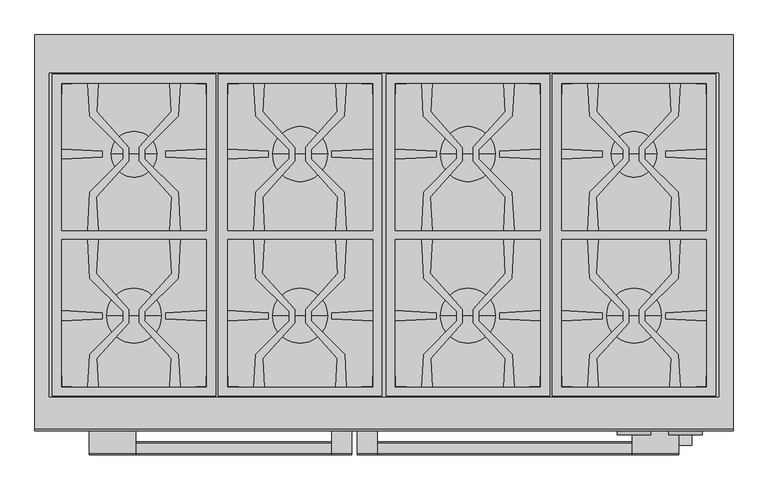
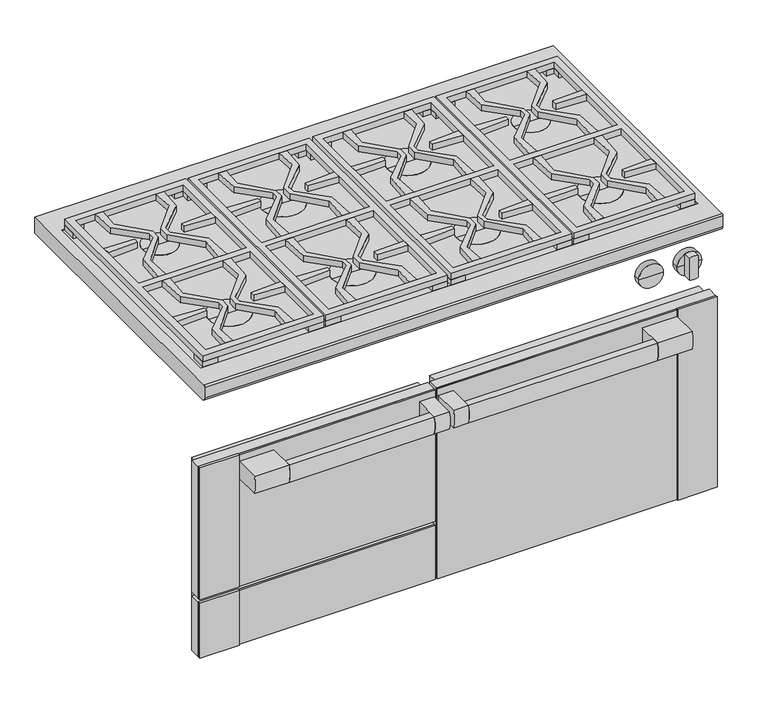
"""IFC4 building model written with IfcOpenShell, lengths in millimetres: proxy geometry, 11791670_USA_HR1954-3G_EDST-CLST : 25195481_USA_11791670_HR1954-3G_EDST-CLST."""

from ifc_helpers import new_model, si_unit, point, frame, frame_2d, origin, place, context, project, spatial, polyline, circle_curve, trimmed, segment, composite_curve, outline, extrude, faceted_brep, source, transform, mapped, element, save
from ifc_brep_helpers import plane_surface, cylinder_surface, advanced_brep


def specialty_equipment_ac291588(model_context):
    return source(origin(), model_context, "Body", "SolidModel", [
        faceted_brep([(608.5, -664.7, 684.0), (608.5, -664.7, 210.0), (515.5, -664.7, 210.0), (515.5, -664.7, 211.0), (607.5, -664.7, 211.0), (607.5, -664.7, 683.0), (515.5, -664.7, 683.0), (515.5, -664.7, 684.0), (608.5, -670.0, 684.0), (515.5, -670.0, 684.0), (515.5, -670.0, 210.0), (608.5, -670.0, 210.0), (515.5, -668.7, 683.0), (515.5, -668.7, 211.0), (607.5, -668.7, 683.0), (607.5, -668.7, 211.0)], [[[0, 1, 2, 3, 4, 5, 6, 7]], [[8, 9, 10, 11]], [[1, 0, 8, 11]], [[2, 1, 11, 10]], [[10, 9, 7, 6, 12, 13, 3, 2]], [[0, 7, 9, 8]], [[14, 15, 13, 12]], [[15, 14, 5, 4]], [[13, 15, 4, 3]], [[14, 12, 6, 5]]]),
        extrude(outline(polyline([(-48.5, -664.7), (607.5, -664.7), (607.5, -668.7), (-48.5, -668.7), (-48.5, -664.7)])), frame((0.0, 0.0, 211.0), z_axis=(0.0, 0.0, 1.0), x_axis=(1.0, 0.0, 0.0)), (0.0, 0.0, 1.0), 472.0),
        faceted_brep([(-515.5, -664.7, 355.0), (-608.5, -664.7, 355.0), (-608.5, -664.7, 684.0), (-515.5, -664.7, 684.0), (-515.5, -664.7, 683.0), (-607.5, -664.7, 683.0), (-607.5, -664.7, 356.0), (-515.5, -664.7, 356.0), (-515.5, -670.0, 684.0), (-608.5, -670.0, 684.0), (-608.5, -670.0, 355.0), (-515.5, -670.0, 355.0), (-515.5, -668.7, 356.0), (-515.5, -668.7, 683.0), (-607.5, -668.7, 356.0), (-607.5, -668.7, 683.0)], [[[0, 1, 2, 3, 4, 5, 6, 7]], [[8, 9, 10, 11]], [[8, 11, 0, 7, 12, 13, 4, 3]], [[1, 0, 11, 10]], [[2, 1, 10, 9]], [[3, 2, 9, 8]], [[12, 14, 15, 13]], [[14, 12, 7, 6]], [[15, 14, 6, 5]], [[13, 15, 5, 4]]]),
        extrude(outline(polyline([(-607.5, -664.7), (-53.5, -664.7), (-53.5, -668.7), (-607.5, -668.7), (-607.5, -664.7)])), frame((0.0, 0.0, 356.0), z_axis=(0.0, 0.0, 1.0), x_axis=(1.0, 0.0, 0.0)), (0.0, 0.0, 1.0), 327.0),
        faceted_brep([(-515.5, -664.7, 210.0), (-608.5, -664.7, 210.0), (-608.5, -664.7, 347.0), (-515.5, -664.7, 347.0), (-515.5, -664.7, 346.0), (-607.5, -664.7, 346.0), (-607.5, -664.7, 211.0), (-515.5, -664.7, 211.0), (-515.5, -670.0, 347.0), (-608.5, -670.0, 347.0), (-608.5, -670.0, 210.0), (-515.5, -670.0, 210.0), (-515.5, -668.7, 211.0), (-515.5, -668.7, 346.0), (-607.5, -668.7, 211.0), (-607.5, -668.7, 346.0)], [[[0, 1, 2, 3, 4, 5, 6, 7]], [[8, 9, 10, 11]], [[8, 11, 0, 7, 12, 13, 4, 3]], [[1, 0, 11, 10]], [[2, 1, 10, 9]], [[3, 2, 9, 8]], [[12, 14, 15, 13]], [[14, 12, 7, 6]], [[15, 14, 6, 5]], [[13, 15, 5, 4]]]),
        extrude(outline(polyline([(-607.5, -664.7), (-53.5, -664.7), (-53.5, -668.7), (-607.5, -668.7), (-607.5, -664.7)])), frame((0.0, 0.0, 211.0), z_axis=(0.0, 0.0, 1.0), x_axis=(1.0, 0.0, 0.0)), (0.0, 0.0, 1.0), 135.0),
        extrude(outline(polyline([(-608.5, -638.0), (-53.5, -638.0), (-53.5, -664.7), (-608.5, -664.7), (-608.5, -638.0)])), frame((0.0, 0.0, 356.0), z_axis=(0.0, 0.0, 1.0), x_axis=(1.0, 0.0, 0.0)), (0.0, 0.0, 1.0), 327.0),
        extrude(outline(polyline([(-48.5, -638.0), (608.5, -638.0), (608.5, -664.7), (-48.5, -664.7), (-48.5, -638.0)])), frame((0.0, 0.0, 211.0), z_axis=(0.0, 0.0, 1.0), x_axis=(1.0, 0.0, 0.0)), (0.0, 0.0, 1.0), 472.0),
        extrude(outline(polyline([(-608.5, -638.0), (-53.5, -638.0), (-53.5, -664.7), (-608.5, -664.7), (-608.5, -638.0)])), frame((0.0, 0.0, 211.0), z_axis=(0.0, 0.0, 1.0), x_axis=(1.0, 0.0, 0.0)), (0.0, 0.0, 1.0), 135.0),
        extrude(outline(polyline([(-36.5, -617.0), (596.5, -617.0), (596.5, -638.0), (-36.5, -638.0), (-36.5, -617.0)])), frame((0.0, 0.0, 218.0), z_axis=(0.0, 0.0, 1.0), x_axis=(1.0, 0.0, 0.0)), (0.0, 0.0, 1.0), 464.0),
        extrude(outline(polyline([(-596.5, -617.0), (-65.5, -617.0), (-65.5, -638.0), (-596.5, -638.0), (-596.5, -617.0)])), frame((0.0, 0.0, 359.0), z_axis=(0.0, 0.0, 1.0), x_axis=(1.0, 0.0, 0.0)), (0.0, 0.0, 1.0), 315.0),
        extrude(outline(polyline([(-596.5, -617.0), (-65.5, -617.0), (-65.5, -638.0), (-596.5, -638.0), (-596.5, -617.0)])), frame((0.0, 0.0, 211.5), z_axis=(0.0, 0.0, 1.0), x_axis=(1.0, 0.0, 0.0)), (0.0, 0.0, 1.0), 134.0),
        extrude(outline(composite_curve([segment(polyline([(-668.7, 667.0), (-668.7, 624.0), (-731.0, 624.0)]), True, "CONTINUOUS"), segment(trimmed(circle_curve(frame_2d((-655.4583333, 645.5)), 78.5416667), [point((-731.0, 624.0))], [point((-731.0, 667.0))], False, "CARTESIAN"), True, "CONTINUOUS"), segment(polyline([(-731.0, 667.0), (-668.7, 667.0)]), True, "CONTINUOUS")], self_intersect=False)), frame((-514.5, 0.0, 0.0), z_axis=(1.0, 0.0, 0.0), x_axis=(0.0, 1.0, 0.0)), (0.0, 0.0, 1.0), 81.0),
        extrude(outline(composite_curve([segment(polyline([(-731.0, 667.0), (-668.7, 667.0), (-668.7, 624.0), (-731.0, 624.0)]), True, "CONTINUOUS"), segment(trimmed(circle_curve(frame_2d((-655.4583333, 645.5)), 78.5416667), [point((-731.0, 624.0))], [point((-731.0, 667.0))], False, "CARTESIAN"), True, "CONTINUOUS")], self_intersect=False)), frame((433.5, 0.0, 0.0), z_axis=(1.0, 0.0, 0.0), x_axis=(0.0, 1.0, 0.0)), (0.0, 0.0, 1.0), 81.0),
        extrude(outline(composite_curve([segment(polyline([(-731.0, 667.0), (-668.7, 667.0), (-668.7, 624.0), (-731.0, 624.0)]), True, "CONTINUOUS"), segment(trimmed(circle_curve(frame_2d((-655.4583333, 645.5)), 78.5416667), [point((-731.0, 624.0))], [point((-731.0, 667.0))], False, "CARTESIAN"), True, "CONTINUOUS")], self_intersect=False)), frame((-91.5, 0.0, 0.0), z_axis=(1.0, 0.0, 0.0), x_axis=(0.0, 1.0, 0.0)), (0.0, 0.0, 1.0), 35.0),
        extrude(outline(composite_curve([segment(polyline([(-731.0, 667.0), (-668.7, 667.0), (-668.7, 624.0), (-731.0, 624.0)]), True, "CONTINUOUS"), segment(trimmed(circle_curve(frame_2d((-655.4583333, 645.5)), 78.5416667), [point((-731.0, 624.0))], [point((-731.0, 667.0))], False, "CARTESIAN"), True, "CONTINUOUS")], self_intersect=False)), frame((-46.5, 0.0, 0.0), z_axis=(1.0, 0.0, 0.0), x_axis=(0.0, 1.0, 0.0)), (0.0, 0.0, 1.0), 35.0),
        extrude(outline(composite_curve([segment(trimmed(circle_curve(frame_2d((-655.4583333, 645.5)), 78.5416667), [point((-731.0, 624.0))], [point((-731.0, 667.0))], False, "CARTESIAN"), True, "CONTINUOUS"), segment(polyline([(-731.0, 667.0), (-714.0, 667.0)]), True, "CONTINUOUS"), segment(trimmed(circle_curve(frame_2d((-789.5416667, 645.5)), 78.5416667), [point((-714.0, 667.0))], [point((-714.0, 624.0))], False, "CARTESIAN"), True, "CONTINUOUS"), segment(polyline([(-714.0, 624.0), (-731.0, 624.0)]), True, "CONTINUOUS")], self_intersect=False)), frame((-433.5, 0.0, 0.0), z_axis=(1.0, 0.0, 0.0), x_axis=(0.0, 1.0, 0.0)), (0.0, 0.0, 1.0), 342.0),
        extrude(outline(composite_curve([segment(trimmed(circle_curve(frame_2d((-655.4583333, 645.5)), 78.5416667), [point((-731.0, 624.0))], [point((-731.0, 667.0))], False, "CARTESIAN"), True, "CONTINUOUS"), segment(polyline([(-731.0, 667.0), (-714.0, 667.0)]), True, "CONTINUOUS"), segment(trimmed(circle_curve(frame_2d((-789.5416667, 645.5)), 78.5416667), [point((-714.0, 667.0))], [point((-714.0, 624.0))], False, "CARTESIAN"), True, "CONTINUOUS"), segment(polyline([(-714.0, 624.0), (-731.0, 624.0)]), True, "CONTINUOUS")], self_intersect=False)), frame((-11.5, 0.0, 0.0), z_axis=(1.0, 0.0, 0.0), x_axis=(0.0, 1.0, 0.0)), (0.0, 0.0, 1.0), 445.0),
        advanced_brep(
        [(609.5, 0.0, 902.0), (609.5, -688.3499547, 902.0), (609.5, -692.0, 898.3499547), (609.5, -692.0, 872.0), (609.5, -682.0, 862.0), (609.5, 0.0, 862.0), (-609.5, 0.0, 902.0), (-609.5, 0.0, 862.0), (-609.5, -682.0, 862.0), (-609.5, -692.0, 872.0), (-609.5, -692.0, 898.3499547), (-609.5, -688.3499547, 902.0), (-584.5, -67.0, 902.0), (584.5, -67.0, 902.0), (584.5, -633.0, 902.0), (-584.5, -633.0, 902.0), (584.5, -67.0, 870.0), (-584.5, -67.0, 870.0), (-584.5, -633.0, 870.0), (584.5, -633.0, 870.0)],
        [
            (0, 1),
            (1, 2, circle_curve(frame((609.5, -688.0, 898.0), z_axis=(1.0, 0.0, 0.0), x_axis=(0.0, 0.0, 1.0)), 4.0152794)),
            (2, 3),
            (3, 4, circle_curve(frame((609.5, -682.0, 872.0), z_axis=(1.0, 0.0, 0.0), x_axis=(0.0, 0.0, 1.0)), 10.0)),
            (4, 5),
            (5, 0),
            (6, 7),
            (7, 8),
            (8, 9, circle_curve(frame((-609.5, -682.0, 872.0), z_axis=(-1.0, 0.0, 0.0), x_axis=(0.0, 0.0, 1.0)), 10.0)),
            (9, 10),
            (10, 11, circle_curve(frame((-609.5, -688.0, 898.0), z_axis=(-1.0, 0.0, 0.0), x_axis=(0.0, 0.0, 1.0)), 4.0152794)),
            (11, 6),
            (0, 6),
            (11, 1),
            (12, 13),
            (13, 14),
            (14, 15),
            (15, 12),
            (10, 2),
            (9, 3),
            (8, 4),
            (7, 5),
            (16, 17),
            (17, 18),
            (18, 19),
            (19, 16),
            (16, 13),
            (12, 17),
            (15, 18),
            (14, 19),
        ],
        [
            plane_surface(frame((609.5, -688.3499547, 902.0), z_axis=(1.0, 0.0, 0.0), x_axis=(0.0, -1.0, 0.0))),
            plane_surface(frame((-609.5, -688.3499547, 902.0), z_axis=(-1.0, 0.0, 0.0), x_axis=(0.0, 1.0, 0.0))),
            plane_surface(frame((609.5, 0.0, 902.0), z_axis=(0.0, 0.0, 1.0), x_axis=(-1.0, 0.0, 0.0))),
            cylinder_surface(frame((-609.5, -688.0, 898.0), z_axis=(1.0, 0.0, 0.0), x_axis=(0.0, 0.0, 1.0)), 4.0152794),
            plane_surface(frame((609.5, -692.0, 898.3499547), z_axis=(0.0, -1.0, 0.0), x_axis=(-1.0, 0.0, 0.0))),
            cylinder_surface(frame((-609.5, -682.0, 872.0), z_axis=(1.0, 0.0, 0.0), x_axis=(0.0, 0.0, 1.0)), 10.0),
            plane_surface(frame((609.5, -682.0, 862.0), z_axis=(0.0, 0.0, -1.0), x_axis=(-1.0, 0.0, 0.0))),
            plane_surface(frame((609.5, 0.0, 862.0), z_axis=(0.0, 1.0, 0.0), x_axis=(-1.0, 0.0, 0.0))),
            plane_surface(frame((-584.5, -67.0, 870.0), z_axis=(0.0, 0.0, 1.0), x_axis=(1.0, 0.0, 0.0))),
            plane_surface(frame((584.5, -67.0, 902.0), z_axis=(0.0, -1.0, 0.0), x_axis=(0.0, 0.0, -1.0))),
            plane_surface(frame((-584.5, -67.0, 902.0), z_axis=(1.0, 0.0, 0.0), x_axis=(0.0, 0.0, -1.0))),
            plane_surface(frame((-584.5, -633.0, 902.0), z_axis=(0.0, 1.0, 0.0), x_axis=(0.0, 0.0, -1.0))),
            plane_surface(frame((584.5, -633.0, 902.0), z_axis=(-1.0, 0.0, 0.0), x_axis=(0.0, 0.0, -1.0))),
        ],
        [
            (0, [[1, 2, 3, 4, 5, 6]]),
            (1, [[7, 8, 9, 10, 11, 12]]),
            (2, [[-1, 13, -12, 14], [15, 16, 17, 18]]),
            (3, [[-2, -14, -11, 19]]),
            (4, [[-3, -19, -10, 20]]),
            (5, [[-4, -20, -9, 21]]),
            (6, [[-5, -21, -8, 22]]),
            (7, [[-6, -22, -7, -13]]),
            (8, [[23, 24, 25, 26]]),
            (9, [[-23, 27, -15, 28]]),
            (10, [[-24, -28, -18, 29]]),
            (11, [[-25, -29, -17, 30]]),
            (12, [[-26, -30, -16, -27]]),
        ],
    ),
        advanced_brep(
        [(98.5, -491.0, 887.0), (194.5, -491.0, 887.0), (194.5, -491.0, 901.0), (98.5, -491.0, 901.0), (146.5, -491.0, 887.0), (146.5, -491.0, 901.0)],
        [
            (0, 1, circle_curve(frame((146.5, -491.0, 887.0), z_axis=(0.0, 0.0, 1.0), x_axis=(1.0, 0.0, 0.0)), 48.0)),
            (1, 2),
            (2, 3, circle_curve(frame((146.5, -491.0, 901.0), z_axis=(0.0, 0.0, -1.0), x_axis=(1.0, 0.0, 0.0)), 48.0)),
            (3, 0),
            (1, 0, circle_curve(frame((146.5, -491.0, 887.0), z_axis=(0.0, 0.0, 1.0), x_axis=(1.0, 0.0, 0.0)), 48.0)),
            (3, 2, circle_curve(frame((146.5, -491.0, 901.0), z_axis=(0.0, 0.0, -1.0), x_axis=(1.0, 0.0, 0.0)), 48.0)),
            (4, 1),
            (0, 4),
            (2, 5),
            (5, 3),
        ],
        [
            cylinder_surface(frame((146.5, -491.0, 2424.4), z_axis=(0.0, 0.0, -1.0), x_axis=(1.0, 0.0, 0.0)), 48.0),
            plane_surface(frame((146.5, -491.0, 887.0), z_axis=(0.0, 0.0, -1.0), x_axis=(1.0, 0.0, 0.0))),
            plane_surface(frame((146.5, -491.0, 901.0), z_axis=(0.0, 0.0, 1.0), x_axis=(1.0, 0.0, 0.0))),
        ],
        [
            (0, [[1, 2, 3, 4]]),
            (0, [[5, -4, 6, -2]]),
            (1, [[7, -1, 8]]),
            (1, [[-8, -5, -7]]),
            (2, [[-3, 9, 10]]),
            (2, [[-6, -10, -9]]),
        ],
    ),
        advanced_brep(
        [(-194.5, -491.0, 887.0), (-98.5, -491.0, 887.0), (-98.5, -491.0, 901.0), (-194.5, -491.0, 901.0), (-146.5, -491.0, 887.0), (-146.5, -491.0, 901.0)],
        [
            (0, 1, circle_curve(frame((-146.5, -491.0, 887.0), z_axis=(0.0, 0.0, 1.0), x_axis=(1.0, 0.0, 0.0)), 48.0)),
            (1, 2),
            (2, 3, circle_curve(frame((-146.5, -491.0, 901.0), z_axis=(0.0, 0.0, -1.0), x_axis=(1.0, 0.0, 0.0)), 48.0)),
            (3, 0),
            (1, 0, circle_curve(frame((-146.5, -491.0, 887.0), z_axis=(0.0, 0.0, 1.0), x_axis=(1.0, 0.0, 0.0)), 48.0)),
            (3, 2, circle_curve(frame((-146.5, -491.0, 901.0), z_axis=(0.0, 0.0, -1.0), x_axis=(1.0, 0.0, 0.0)), 48.0)),
            (4, 1),
            (0, 4),
            (2, 5),
            (5, 3),
        ],
        [
            cylinder_surface(frame((-146.5, -491.0, 2424.4), z_axis=(0.0, 0.0, -1.0), x_axis=(1.0, 0.0, 0.0)), 48.0),
            plane_surface(frame((-146.5, -491.0, 887.0), z_axis=(0.0, 0.0, -1.0), x_axis=(1.0, 0.0, 0.0))),
            plane_surface(frame((-146.5, -491.0, 901.0), z_axis=(0.0, 0.0, 1.0), x_axis=(1.0, 0.0, 0.0))),
        ],
        [
            (0, [[1, 2, 3, 4]]),
            (0, [[5, -4, 6, -2]]),
            (1, [[7, -1, 8]]),
            (1, [[-8, -5, -7]]),
            (2, [[-3, 9, 10]]),
            (2, [[-6, -10, -9]]),
        ],
    ),
        advanced_brep(
        [(-146.5, -208.5, 887.0), (-98.5, -208.5, 887.0), (-194.5, -208.5, 887.0), (-194.5, -208.5, 901.0), (-98.5, -208.5, 901.0), (-146.5, -208.5, 901.0)],
        [
            (0, 1),
            (1, 2, circle_curve(frame((-146.5, -208.5, 887.0), z_axis=(0.0, 0.0, -1.0), x_axis=(1.0, 0.0, 0.0)), 48.0)),
            (2, 0),
            (2, 1, circle_curve(frame((-146.5, -208.5, 887.0), z_axis=(0.0, 0.0, -1.0), x_axis=(1.0, 0.0, 0.0)), 48.0)),
            (3, 4, circle_curve(frame((-146.5, -208.5, 901.0), z_axis=(0.0, 0.0, 1.0), x_axis=(1.0, 0.0, 0.0)), 48.0)),
            (4, 5),
            (5, 3),
            (4, 3, circle_curve(frame((-146.5, -208.5, 901.0), z_axis=(0.0, 0.0, 1.0), x_axis=(1.0, 0.0, 0.0)), 48.0)),
            (1, 4),
            (3, 2),
        ],
        [
            plane_surface(frame((-146.5, -208.5, 887.0), z_axis=(0.0, 0.0, -1.0), x_axis=(1.0, 0.0, 0.0))),
            plane_surface(frame((-146.5, -208.5, 901.0), z_axis=(0.0, 0.0, 1.0), x_axis=(1.0, 0.0, 0.0))),
            cylinder_surface(frame((-146.5, -208.5, 2424.4), z_axis=(0.0, 0.0, -1.0), x_axis=(1.0, 0.0, 0.0)), 48.0),
        ],
        [
            (0, [[1, 2, 3]]),
            (0, [[-3, 4, -1]]),
            (1, [[5, 6, 7]]),
            (1, [[8, -7, -6]]),
            (2, [[-2, 9, -5, 10]]),
            (2, [[-4, -10, -8, -9]]),
        ],
    ),
        advanced_brep(
        [(98.5, -208.5, 887.0), (194.5, -208.5, 887.0), (194.5, -208.5, 901.0), (98.5, -208.5, 901.0), (146.5, -208.5, 887.0), (146.5, -208.5, 901.0)],
        [
            (0, 1, circle_curve(frame((146.5, -208.5, 887.0), z_axis=(0.0, 0.0, 1.0), x_axis=(1.0, 0.0, 0.0)), 48.0)),
            (1, 2),
            (2, 3, circle_curve(frame((146.5, -208.5, 901.0), z_axis=(0.0, 0.0, -1.0), x_axis=(1.0, 0.0, 0.0)), 48.0)),
            (3, 0),
            (1, 0, circle_curve(frame((146.5, -208.5, 887.0), z_axis=(0.0, 0.0, 1.0), x_axis=(1.0, 0.0, 0.0)), 48.0)),
            (3, 2, circle_curve(frame((146.5, -208.5, 901.0), z_axis=(0.0, 0.0, -1.0), x_axis=(1.0, 0.0, 0.0)), 48.0)),
            (4, 1),
            (0, 4),
            (2, 5),
            (5, 3),
        ],
        [
            cylinder_surface(frame((146.5, -208.5, 2338.4), z_axis=(0.0, 0.0, -1.0), x_axis=(1.0, 0.0, 0.0)), 48.0),
            plane_surface(frame((146.5, -208.5, 887.0), z_axis=(0.0, 0.0, -1.0), x_axis=(1.0, 0.0, 0.0))),
            plane_surface(frame((146.5, -208.5, 901.0), z_axis=(0.0, 0.0, 1.0), x_axis=(1.0, 0.0, 0.0))),
        ],
        [
            (0, [[1, 2, 3, 4]]),
            (0, [[5, -4, 6, -2]]),
            (1, [[7, -1, 8]]),
            (1, [[-8, -5, -7]]),
            (2, [[-3, 9, 10]]),
            (2, [[-6, -10, -9]]),
        ],
    ),
        extrude(outline(polyline([(289.0, -631.0), (254.0, -631.0), (254.0, -615.0), (273.0337834, -615.0), (273.0337834, -596.0), (289.0, -596.0), (289.0, -631.0)])), frame((0.0, 0.0, 887.0), z_axis=(0.0, 0.0, 1.0), x_axis=(1.0, 0.0, 0.0)), (0.0, 0.0, 1.0), 27.0),
        extrude(outline(polyline([(4.0, -631.0), (4.0, -596.0), (20.0337834, -596.0), (20.0337834, -615.0), (39.0, -615.0), (39.0, -631.0), (4.0, -631.0)])), frame((0.0, 0.0, 887.0), z_axis=(0.0, 0.0, 1.0), x_axis=(1.0, 0.0, 0.0)), (0.0, 0.0, 1.0), 27.0),
        extrude(outline(polyline([(289.0, -69.0), (289.0, -104.0), (273.0337834, -104.0), (273.0337834, -85.0), (254.0, -85.0), (254.0, -69.0), (289.0, -69.0)])), frame((0.0, 0.0, 887.0), z_axis=(0.0, 0.0, 1.0), x_axis=(1.0, 0.0, 0.0)), (0.0, 0.0, 1.0), 27.0),
        extrude(outline(polyline([(4.0, -69.0), (39.0, -69.0), (39.0, -85.0), (20.0337834, -85.0), (20.0337834, -104.0), (4.0, -104.0), (4.0, -69.0)])), frame((0.0, 0.0, 887.0), z_axis=(0.0, 0.0, 1.0), x_axis=(1.0, 0.0, 0.0)), (0.0, 0.0, 1.0), 27.0),
        extrude(outline(polyline([(579.0, -631.0), (544.0, -631.0), (544.0, -615.0), (563.0, -615.0), (563.0, -596.0), (579.0, -596.0), (579.0, -631.0)])), frame((0.0, 0.0, 887.0), z_axis=(0.0, 0.0, 1.0), x_axis=(1.0, 0.0, 0.0)), (0.0, 0.0, 1.0), 27.0),
        extrude(outline(polyline([(294.0, -631.0), (294.0, -596.0), (310.0125078, -596.0), (310.0125078, -615.0), (329.0, -615.0), (329.0, -631.0), (294.0, -631.0)])), frame((0.0, 0.0, 887.0), z_axis=(0.0, 0.0, 1.0), x_axis=(1.0, 0.0, 0.0)), (0.0, 0.0, 1.0), 27.0),
        extrude(outline(polyline([(579.0, -69.0), (579.0, -104.0), (562.9874922, -104.0), (562.9874922, -85.0), (544.0, -85.0), (544.0, -69.0), (579.0, -69.0)])), frame((0.0, 0.0, 887.0), z_axis=(0.0, 0.0, 1.0), x_axis=(1.0, 0.0, 0.0)), (0.0, 0.0, 1.0), 27.0),
        extrude(outline(polyline([(294.0, -69.0), (329.0, -69.0), (329.0, -85.0), (310.0125078, -85.0), (310.0125078, -104.0), (294.0, -104.0), (294.0, -69.0)])), frame((0.0, 0.0, 887.0), z_axis=(0.0, 0.0, 1.0), x_axis=(1.0, 0.0, 0.0)), (0.0, 0.0, 1.0), 27.0),
        advanced_brep(
        [(-476.5, -208.5, 887.0), (-396.5, -208.5, 887.0), (-396.5, -208.5, 901.0), (-476.5, -208.5, 901.0), (-436.5, -208.5, 887.0), (-436.5, -208.5, 901.0)],
        [
            (0, 1, circle_curve(frame((-436.5, -208.5, 887.0), z_axis=(0.0, 0.0, 1.0), x_axis=(1.0, 0.0, 0.0)), 40.0)),
            (1, 2),
            (2, 3, circle_curve(frame((-436.5, -208.5, 901.0), z_axis=(0.0, 0.0, -1.0), x_axis=(1.0, 0.0, 0.0)), 40.0)),
            (3, 0),
            (1, 0, circle_curve(frame((-436.5, -208.5, 887.0), z_axis=(0.0, 0.0, 1.0), x_axis=(1.0, 0.0, 0.0)), 40.0)),
            (3, 2, circle_curve(frame((-436.5, -208.5, 901.0), z_axis=(0.0, 0.0, -1.0), x_axis=(1.0, 0.0, 0.0)), 40.0)),
            (4, 1),
            (0, 4),
            (2, 5),
            (5, 3),
        ],
        [
            cylinder_surface(frame((-436.5, -208.5, 2424.4), z_axis=(0.0, 0.0, -1.0), x_axis=(1.0, 0.0, 0.0)), 40.0),
            plane_surface(frame((-436.5, -208.5, 887.0), z_axis=(0.0, 0.0, -1.0), x_axis=(1.0, 0.0, 0.0))),
            plane_surface(frame((-436.5, -208.5, 901.0), z_axis=(0.0, 0.0, 1.0), x_axis=(1.0, 0.0, 0.0))),
        ],
        [
            (0, [[1, 2, 3, 4]]),
            (0, [[5, -4, 6, -2]]),
            (1, [[7, -1, 8]]),
            (1, [[-8, -5, -7]]),
            (2, [[-3, 9, 10]]),
            (2, [[-6, -10, -9]]),
        ],
    ),
        advanced_brep(
        [(-484.5, -491.0, 887.0), (-388.5, -491.0, 887.0), (-388.5, -491.0, 901.0), (-484.5, -491.0, 901.0), (-436.5, -491.0, 887.0), (-436.5, -491.0, 901.0)],
        [
            (0, 1, circle_curve(frame((-436.5, -491.0, 887.0), z_axis=(0.0, 0.0, 1.0), x_axis=(1.0, 0.0, 0.0)), 48.0)),
            (1, 2),
            (2, 3, circle_curve(frame((-436.5, -491.0, 901.0), z_axis=(0.0, 0.0, -1.0), x_axis=(1.0, 0.0, 0.0)), 48.0)),
            (3, 0),
            (1, 0, circle_curve(frame((-436.5, -491.0, 887.0), z_axis=(0.0, 0.0, 1.0), x_axis=(1.0, 0.0, 0.0)), 48.0)),
            (3, 2, circle_curve(frame((-436.5, -491.0, 901.0), z_axis=(0.0, 0.0, -1.0), x_axis=(1.0, 0.0, 0.0)), 48.0)),
            (4, 1),
            (0, 4),
            (2, 5),
            (5, 3),
        ],
        [
            cylinder_surface(frame((-436.5, -491.0, 2424.4), z_axis=(0.0, 0.0, -1.0), x_axis=(1.0, 0.0, 0.0)), 48.0),
            plane_surface(frame((-436.5, -491.0, 887.0), z_axis=(0.0, 0.0, -1.0), x_axis=(1.0, 0.0, 0.0))),
            plane_surface(frame((-436.5, -491.0, 901.0), z_axis=(0.0, 0.0, 1.0), x_axis=(1.0, 0.0, 0.0))),
        ],
        [
            (0, [[1, 2, 3, 4]]),
            (0, [[5, -4, 6, -2]]),
            (1, [[7, -1, 8]]),
            (1, [[-8, -5, -7]]),
            (2, [[-3, 9, 10]]),
            (2, [[-6, -10, -9]]),
        ],
    ),
        advanced_brep(
        [(388.5, -491.0, 887.0), (484.5, -491.0, 887.0), (484.5, -491.0, 901.0), (388.5, -491.0, 901.0), (436.5, -491.0, 887.0), (436.5, -491.0, 901.0)],
        [
            (0, 1, circle_curve(frame((436.5, -491.0, 887.0), z_axis=(0.0, 0.0, 1.0), x_axis=(1.0, 0.0, 0.0)), 48.0)),
            (1, 2),
            (2, 3, circle_curve(frame((436.5, -491.0, 901.0), z_axis=(0.0, 0.0, -1.0), x_axis=(1.0, 0.0, 0.0)), 48.0)),
            (3, 0),
            (1, 0, circle_curve(frame((436.5, -491.0, 887.0), z_axis=(0.0, 0.0, 1.0), x_axis=(1.0, 0.0, 0.0)), 48.0)),
            (3, 2, circle_curve(frame((436.5, -491.0, 901.0), z_axis=(0.0, 0.0, -1.0), x_axis=(1.0, 0.0, 0.0)), 48.0)),
            (4, 1),
            (0, 4),
            (2, 5),
            (5, 3),
        ],
        [
            cylinder_surface(frame((436.5, -491.0, 2424.4), z_axis=(0.0, 0.0, -1.0), x_axis=(1.0, 0.0, 0.0)), 48.0),
            plane_surface(frame((436.5, -491.0, 887.0), z_axis=(0.0, 0.0, -1.0), x_axis=(1.0, 0.0, 0.0))),
            plane_surface(frame((436.5, -491.0, 901.0), z_axis=(0.0, 0.0, 1.0), x_axis=(1.0, 0.0, 0.0))),
        ],
        [
            (0, [[1, 2, 3, 4]]),
            (0, [[5, -4, 6, -2]]),
            (1, [[7, -1, 8]]),
            (1, [[-8, -5, -7]]),
            (2, [[-3, 9, 10]]),
            (2, [[-6, -10, -9]]),
        ],
    ),
        extrude(outline(polyline([(-294.0, -69.0), (-294.0, -631.0), (-579.0, -631.0), (-579.0, -69.0), (-294.0, -69.0)]), holes=[polyline([(-310.0, -85.0), (-563.0, -85.0), (-563.0, -342.0), (-310.0, -342.0), (-310.0, -85.0)]), polyline([(-563.0, -358.0), (-563.0, -615.0), (-310.0, -615.0), (-310.0, -358.0), (-563.0, -358.0)])]), frame((0.0, 0.0, 914.0), z_axis=(0.0, 0.0, 1.0), x_axis=(1.0, 0.0, 0.0)), (0.0, 0.0, 1.0), 15.0),
        extrude(outline(polyline([(579.0, -69.0), (579.0, -631.0), (294.0, -631.0), (294.0, -69.0), (579.0, -69.0)]), holes=[polyline([(563.0, -85.0), (310.0, -85.0), (310.0, -342.0), (563.0, -342.0), (563.0, -85.0)]), polyline([(310.0, -358.0), (310.0, -615.0), (563.0, -615.0), (563.0, -358.0), (310.0, -358.0)])]), frame((0.0, 0.0, 914.0), z_axis=(0.0, 0.0, 1.0), x_axis=(1.0, 0.0, 0.0)), (0.0, 0.0, 1.0), 15.0),
        extrude(outline(polyline([(289.0, -69.0), (289.0, -631.0), (4.0, -631.0), (4.0, -69.0), (289.0, -69.0)]), holes=[polyline([(273.0337834, -85.0), (20.0337834, -85.0), (20.0337834, -342.0), (273.0337834, -342.0), (273.0337834, -85.0)]), polyline([(20.0337834, -358.0), (20.0337834, -615.0), (273.0337834, -615.0), (273.0337834, -358.0), (20.0337834, -358.0)])]), frame((0.0, 0.0, 914.0), z_axis=(0.0, 0.0, 1.0), x_axis=(1.0, 0.0, 0.0)), (0.0, 0.0, 1.0), 15.0),
        extrude(outline(polyline([(-4.0, -69.0), (-4.0, -631.0), (-289.0, -631.0), (-289.0, -69.0), (-4.0, -69.0)]), holes=[polyline([(-20.0, -85.0), (-273.0, -85.0), (-273.0, -342.0), (-20.0, -342.0), (-20.0, -85.0)]), polyline([(-273.0, -358.0), (-273.0, -615.0), (-20.0, -615.0), (-20.0, -358.0), (-273.0, -358.0)])]), frame((0.0, 0.0, 914.0), z_axis=(0.0, 0.0, 1.0), x_axis=(1.0, 0.0, 0.0)), (0.0, 0.0, 1.0), 15.0),
        advanced_brep(
        [(396.5, -208.5, 887.0), (476.5, -208.5, 887.0), (476.5, -208.5, 901.0), (396.5, -208.5, 901.0), (436.5, -208.5, 887.0), (436.5, -208.5, 901.0)],
        [
            (0, 1, circle_curve(frame((436.5, -208.5, 887.0), z_axis=(0.0, 0.0, 1.0), x_axis=(1.0, 0.0, 0.0)), 40.0)),
            (1, 2),
            (2, 3, circle_curve(frame((436.5, -208.5, 901.0), z_axis=(0.0, 0.0, -1.0), x_axis=(1.0, 0.0, 0.0)), 40.0)),
            (3, 0),
            (1, 0, circle_curve(frame((436.5, -208.5, 887.0), z_axis=(0.0, 0.0, 1.0), x_axis=(1.0, 0.0, 0.0)), 40.0)),
            (3, 2, circle_curve(frame((436.5, -208.5, 901.0), z_axis=(0.0, 0.0, -1.0), x_axis=(1.0, 0.0, 0.0)), 40.0)),
            (4, 1),
            (0, 4),
            (2, 5),
            (5, 3),
        ],
        [
            cylinder_surface(frame((436.5, -208.5, 2424.4), z_axis=(0.0, 0.0, -1.0), x_axis=(1.0, 0.0, 0.0)), 40.0),
            plane_surface(frame((436.5, -208.5, 887.0), z_axis=(0.0, 0.0, -1.0), x_axis=(1.0, 0.0, 0.0))),
            plane_surface(frame((436.5, -208.5, 901.0), z_axis=(0.0, 0.0, 1.0), x_axis=(1.0, 0.0, 0.0))),
        ],
        [
            (0, [[1, 2, 3, 4]]),
            (0, [[5, -4, 6, -2]]),
            (1, [[7, -1, 8]]),
            (1, [[-8, -5, -7]]),
            (2, [[-3, 9, 10]]),
            (2, [[-6, -10, -9]]),
        ],
    ),
        extrude(outline(polyline([(20.0337834, -217.4810574), (20.0337834, -199.5189426), (91.0337834, -203.2078739), (91.0337834, -213.7921261), (20.0337834, -217.4810574)])), frame((0.0, 0.0, 914.0), z_axis=(0.0, 0.0, 1.0), x_axis=(1.0, 0.0, 0.0)), (0.0, 0.0, 1.0), 15.0),
        extrude(outline(polyline([(273.0337834, -199.5262039), (273.0337834, -217.4737961), (202.0337834, -213.7790477), (202.0337834, -203.2209523), (273.0337834, -199.5262039)])), frame((0.0, 0.0, 914.0), z_axis=(0.0, 0.0, 1.0), x_axis=(1.0, 0.0, 0.0)), (0.0, 0.0, 1.0), 15.0),
        extrude(outline(polyline([(-294.0, -631.0), (-329.0, -631.0), (-329.0, -615.0), (-310.0, -615.0), (-310.0, -596.0), (-294.0, -596.0), (-294.0, -631.0)])), frame((0.0, 0.0, 887.0), z_axis=(0.0, 0.0, 1.0), x_axis=(1.0, 0.0, 0.0)), (0.0, 0.0, 1.0), 27.0),
        extrude(outline(polyline([(-579.0, -631.0), (-579.0, -596.0), (-563.0, -596.0), (-563.0, -615.0), (-544.0, -615.0), (-544.0, -631.0), (-579.0, -631.0)])), frame((0.0, 0.0, 887.0), z_axis=(0.0, 0.0, 1.0), x_axis=(1.0, 0.0, 0.0)), (0.0, 0.0, 1.0), 27.0),
        extrude(outline(polyline([(-294.0, -69.0), (-294.0, -104.0), (-310.0, -104.0), (-310.0, -85.0), (-329.0, -85.0), (-329.0, -69.0), (-294.0, -69.0)])), frame((0.0, 0.0, 887.0), z_axis=(0.0, 0.0, 1.0), x_axis=(1.0, 0.0, 0.0)), (0.0, 0.0, 1.0), 27.0),
        extrude(outline(polyline([(-579.0, -69.0), (-544.0, -69.0), (-544.0, -85.0), (-563.0, -85.0), (-563.0, -104.0), (-579.0, -104.0), (-579.0, -69.0)])), frame((0.0, 0.0, 887.0), z_axis=(0.0, 0.0, 1.0), x_axis=(1.0, 0.0, 0.0)), (0.0, 0.0, 1.0), 27.0),
        extrude(outline(polyline([(-517.0385862, -85.0), (-499.0385862, -85.0), (-501.6338026, -134.5196799), (-446.0, -196.6082182), (-446.0, -220.3917818), (-502.1289218, -283.0328838), (-499.0385862, -342.0), (-517.0385862, -342.0), (-513.5028157, -274.5334805), (-455.6108918, -216.6415566), (-455.6108918, -200.3584434), (-514.0558783, -141.9134569), (-517.0385862, -85.0)])), frame((0.0, 0.0, 914.0), z_axis=(0.0, 0.0, 1.0), x_axis=(1.0, 0.0, 0.0)), (0.0, 0.0, 1.0), 15.0),
        extrude(outline(polyline([(-356.0, -85.0), (-358.9827079, -141.9134569), (-417.3891082, -200.3198573), (-417.3891082, -216.6801428), (-359.5357705, -274.5334805), (-356.0, -342.0), (-374.0, -342.0), (-370.9096644, -283.0328839), (-427.0, -220.4348449), (-427.0, -196.5651551), (-371.4047835, -134.5196799), (-374.0, -85.0), (-356.0, -85.0)])), frame((0.0, 0.0, 914.0), z_axis=(0.0, 0.0, 1.0), x_axis=(1.0, 0.0, 0.0)), (0.0, 0.0, 1.0), 15.0),
        extrude(outline(polyline([(310.0, -217.4810574), (310.0, -199.5189426), (381.0, -203.2078739), (381.0, -213.7921261), (310.0, -217.4810574)])), frame((0.0, 0.0, 914.0), z_axis=(0.0, 0.0, 1.0), x_axis=(1.0, 0.0, 0.0)), (0.0, 0.0, 1.0), 15.0),
        extrude(outline(polyline([(563.0, -199.5262039), (563.0, -217.4737961), (492.0, -213.7790477), (492.0, -203.2209523), (563.0, -199.5262039)])), frame((0.0, 0.0, 914.0), z_axis=(0.0, 0.0, 1.0), x_axis=(1.0, 0.0, 0.0)), (0.0, 0.0, 1.0), 15.0),
        extrude(outline(polyline([(310.0, -499.9810574), (310.0, -482.0189426), (381.0, -485.7078739), (381.0, -496.2921261), (310.0, -499.9810574)])), frame((0.0, 0.0, 914.0), z_axis=(0.0, 0.0, 1.0), x_axis=(1.0, 0.0, 0.0)), (0.0, 0.0, 1.0), 15.0),
        extrude(outline(polyline([(563.0, -482.0262039), (563.0, -499.9737961), (492.0, -496.2790477), (492.0, -485.7209523), (563.0, -482.0262039)])), frame((0.0, 0.0, 914.0), z_axis=(0.0, 0.0, 1.0), x_axis=(1.0, 0.0, 0.0)), (0.0, 0.0, 1.0), 15.0),
        extrude(outline(polyline([(20.0337834, -499.9810574), (20.0337834, -482.0189426), (91.0337834, -485.7078739), (91.0337834, -496.2921261), (20.0337834, -499.9810574)])), frame((0.0, 0.0, 914.0), z_axis=(0.0, 0.0, 1.0), x_axis=(1.0, 0.0, 0.0)), (0.0, 0.0, 1.0), 15.0),
        extrude(outline(polyline([(273.0337834, -482.0262039), (273.0337834, -499.9737961), (202.0337834, -496.2790477), (202.0337834, -485.7209523), (273.0337834, -482.0262039)])), frame((0.0, 0.0, 914.0), z_axis=(0.0, 0.0, 1.0), x_axis=(1.0, 0.0, 0.0)), (0.0, 0.0, 1.0), 15.0),
        extrude(outline(polyline([(-563.0, -499.9810574), (-563.0, -482.0189426), (-492.0, -485.7078739), (-492.0, -496.2921261), (-563.0, -499.9810574)])), frame((0.0, 0.0, 914.0), z_axis=(0.0, 0.0, 1.0), x_axis=(1.0, 0.0, 0.0)), (0.0, 0.0, 1.0), 15.0),
        extrude(outline(polyline([(-310.0, -482.0262039), (-310.0, -499.9737961), (-381.0, -496.2790477), (-381.0, -485.7209523), (-310.0, -482.0262039)])), frame((0.0, 0.0, 914.0), z_axis=(0.0, 0.0, 1.0), x_axis=(1.0, 0.0, 0.0)), (0.0, 0.0, 1.0), 15.0),
        extrude(outline(polyline([(-563.0, -217.4810574), (-563.0, -199.5189426), (-492.0, -203.2078739), (-492.0, -213.7921261), (-563.0, -217.4810574)])), frame((0.0, 0.0, 914.0), z_axis=(0.0, 0.0, 1.0), x_axis=(1.0, 0.0, 0.0)), (0.0, 0.0, 1.0), 15.0),
        extrude(outline(polyline([(-310.0, -199.5262039), (-310.0, -217.4737961), (-381.0, -213.7790477), (-381.0, -203.2209523), (-310.0, -199.5262039)])), frame((0.0, 0.0, 914.0), z_axis=(0.0, 0.0, 1.0), x_axis=(1.0, 0.0, 0.0)), (0.0, 0.0, 1.0), 15.0),
        extrude(outline(polyline([(-4.0, -631.0), (-39.0, -631.0), (-39.0, -615.0), (-20.0, -615.0), (-20.0, -596.0), (-4.0, -596.0), (-4.0, -631.0)])), frame((0.0, 0.0, 887.0), z_axis=(0.0, 0.0, 1.0), x_axis=(1.0, 0.0, 0.0)), (0.0, 0.0, 1.0), 27.0),
        extrude(outline(polyline([(-289.0, -631.0), (-289.0, -596.0), (-273.0, -596.0), (-273.0, -615.0), (-254.0, -615.0), (-254.0, -631.0), (-289.0, -631.0)])), frame((0.0, 0.0, 887.0), z_axis=(0.0, 0.0, 1.0), x_axis=(1.0, 0.0, 0.0)), (0.0, 0.0, 1.0), 27.0),
        extrude(outline(polyline([(-4.0, -69.0), (-4.0, -104.0), (-20.0, -104.0), (-20.0, -85.0), (-39.0, -85.0), (-39.0, -69.0), (-4.0, -69.0)])), frame((0.0, 0.0, 887.0), z_axis=(0.0, 0.0, 1.0), x_axis=(1.0, 0.0, 0.0)), (0.0, 0.0, 1.0), 27.0),
        extrude(outline(polyline([(-289.0, -69.0), (-254.0, -69.0), (-254.0, -85.0), (-273.0, -85.0), (-273.0, -104.0), (-289.0, -104.0), (-289.0, -69.0)])), frame((0.0, 0.0, 887.0), z_axis=(0.0, 0.0, 1.0), x_axis=(1.0, 0.0, 0.0)), (0.0, 0.0, 1.0), 27.0),
        extrude(outline(polyline([(-202.0, -496.2921261), (-273.0, -499.9578849), (-273.0, -482.0421151), (-202.0, -485.7078739), (-202.0, -496.2921261)])), frame((0.0, 0.0, 914.0), z_axis=(0.0, 0.0, 1.0), x_axis=(1.0, 0.0, 0.0)), (0.0, 0.0, 1.0), 15.0),
        extrude(outline(polyline([(-20.0, -482.0029948), (-20.0, -499.9970052), (-91.0, -496.2790477), (-91.0, -485.7209523), (-20.0, -482.0029948)])), frame((0.0, 0.0, 914.0), z_axis=(0.0, 0.0, 1.0), x_axis=(1.0, 0.0, 0.0)), (0.0, 0.0, 1.0), 15.0),
        extrude(outline(polyline([(-202.0, -213.7921261), (-273.0, -217.4578849), (-273.0, -199.5421151), (-202.0, -203.2078739), (-202.0, -213.7921261)])), frame((0.0, 0.0, 914.0), z_axis=(0.0, 0.0, 1.0), x_axis=(1.0, 0.0, 0.0)), (0.0, 0.0, 1.0), 15.0),
        extrude(outline(polyline([(-20.0, -199.5029948), (-20.0, -217.4970052), (-91.0, -213.7790477), (-91.0, -203.2209523), (-20.0, -199.5029948)])), frame((0.0, 0.0, 914.0), z_axis=(0.0, 0.0, 1.0), x_axis=(1.0, 0.0, 0.0)), (0.0, 0.0, 1.0), 15.0),
        extrude(outline(polyline([(-4.0, -67.0), (-4.0, -633.0), (-289.0, -633.0), (-289.0, -67.0), (-4.0, -67.0)])), frame((0.0, 0.0, 870.0), z_axis=(0.0, 0.0, 1.0), x_axis=(1.0, 0.0, 0.0)), (0.0, 0.0, 1.0), 17.0),
        extrude(outline(polyline([(289.0, -69.0), (289.0, -631.0), (4.0, -631.0), (4.0, -69.0), (289.0, -69.0)])), frame((0.0, 0.0, 870.0), z_axis=(0.0, 0.0, 1.0), x_axis=(1.0, 0.0, 0.0)), (0.0, 0.0, 1.0), 17.0),
        extrude(outline(polyline([(-294.0, -67.0), (-294.0, -633.0), (-579.0, -633.0), (-579.0, -67.0), (-294.0, -67.0)])), frame((0.0, 0.0, 870.0), z_axis=(0.0, 0.0, 1.0), x_axis=(1.0, 0.0, 0.0)), (0.0, 0.0, 1.0), 17.0),
        extrude(outline(polyline([(579.0, -67.0), (579.0, -633.0), (294.0, -633.0), (294.0, -67.0), (579.0, -67.0)])), frame((0.0, 0.0, 870.0), z_axis=(0.0, 0.0, 1.0), x_axis=(1.0, 0.0, 0.0)), (0.0, 0.0, 1.0), 17.0),
        extrude(outline(polyline([(83.9614138, -85.0), (81.3661974, -134.5196799), (137.0, -196.6082182), (137.0, -220.3917818), (80.8710782, -283.0328838), (83.9614138, -342.0), (65.9614138, -342.0), (69.4971843, -274.5334805), (127.3891082, -216.6415566), (127.3891082, -200.3584434), (68.9441217, -141.9134569), (65.9614138, -85.0), (83.9614138, -85.0)])), frame((0.0, 0.0, 914.0), z_axis=(0.0, 0.0, 1.0), x_axis=(1.0, 0.0, 0.0)), (0.0, 0.0, 1.0), 15.0),
        extrude(outline(polyline([(211.5952165, -134.5196799), (209.0, -85.0), (227.0, -85.0), (224.0172921, -141.9134569), (165.6108918, -200.3198573), (165.6108918, -216.6801428), (223.4642295, -274.5334805), (227.0, -342.0), (209.0, -342.0), (212.0903356, -283.0328839), (156.0, -220.4348449), (156.0, -196.5651551), (211.5952165, -134.5196799)])), frame((0.0, 0.0, 914.0), z_axis=(0.0, 0.0, 1.0), x_axis=(1.0, 0.0, 0.0)), (0.0, 0.0, 1.0), 15.0),
        extrude(outline(polyline([(-227.0385862, -85.0), (-209.0385862, -85.0), (-211.6338026, -134.5196799), (-156.0, -196.6082182), (-156.0, -220.3917818), (-212.1289218, -283.0328838), (-209.0385862, -342.0), (-227.0385862, -342.0), (-223.5028157, -274.5334805), (-165.6108918, -216.6415566), (-165.6108918, -200.3584434), (-224.0558783, -141.9134569), (-227.0385862, -85.0)])), frame((0.0, 0.0, 914.0), z_axis=(0.0, 0.0, 1.0), x_axis=(1.0, 0.0, 0.0)), (0.0, 0.0, 1.0), 15.0),
        extrude(outline(polyline([(-84.0, -85.0), (-66.0, -85.0), (-68.9827079, -141.9134569), (-127.3891082, -200.3198573), (-127.3891082, -216.6801428), (-69.5357705, -274.5334805), (-66.0, -342.0), (-84.0, -342.0), (-80.9096644, -283.0328839), (-137.0, -220.4348449), (-137.0, -196.5651551), (-81.4047835, -134.5196799), (-84.0, -85.0)])), frame((0.0, 0.0, 914.0), z_axis=(0.0, 0.0, 1.0), x_axis=(1.0, 0.0, 0.0)), (0.0, 0.0, 1.0), 15.0),
        extrude(outline(polyline([(355.9614138, -85.0), (373.9614138, -85.0), (371.3661974, -134.5196799), (427.0, -196.6082182), (427.0, -220.3917818), (370.8710782, -283.0328838), (373.9614138, -342.0), (355.9614138, -342.0), (359.4971843, -274.5334805), (417.3891082, -216.6415566), (417.3891082, -200.3584434), (358.9441217, -141.9134569), (355.9614138, -85.0)])), frame((0.0, 0.0, 914.0), z_axis=(0.0, 0.0, 1.0), x_axis=(1.0, 0.0, 0.0)), (0.0, 0.0, 1.0), 15.0),
        extrude(outline(polyline([(499.0, -85.0), (517.0, -85.0), (514.0172921, -141.9134569), (455.6108918, -200.3198573), (455.6108918, -216.6801428), (513.4642295, -274.5334805), (517.0, -342.0), (499.0, -342.0), (502.0903356, -283.0328839), (446.0, -220.4348449), (446.0, -196.5651551), (501.5952165, -134.5196799), (499.0, -85.0)])), frame((0.0, 0.0, 914.0), z_axis=(0.0, 0.0, 1.0), x_axis=(1.0, 0.0, 0.0)), (0.0, 0.0, 1.0), 15.0),
        extrude(outline(polyline([(-358.9561608, -558.1021355), (-355.9537513, -615.0212482), (-373.958529, -615.0212482), (-371.3779352, -565.4581775), (-427.0409298, -503.3795395), (-427.0409298, -479.6049953), (-370.9333083, -416.9448139), (-374.0411265, -358.0273828), (-356.0465434, -358.0273828), (-359.5565254, -425.4403498), (-417.4287769, -483.3126013), (-417.4287769, -499.6295194), (-358.9561608, -558.1021355)])), frame((0.0, 0.0, 914.0), z_axis=(0.0, 0.0, 1.0), x_axis=(1.0, 0.0, 0.0)), (0.0, 0.0, 1.0), 15.0),
        extrude(outline(polyline([(-501.6069467, -565.5024535), (-498.9948945, -615.0212482), (-516.9945748, -615.0212482), (-514.0293542, -558.0710081), (-455.6505447, -499.6921986), (-455.6505447, -483.3657133), (-513.5235617, -425.4926963), (-517.0822696, -358.0273828), (-499.0825893, -358.0273828), (-502.1525581, -416.9894265), (-446.0409434, -479.568392), (-446.0409434, -503.4471434), (-501.6069467, -565.5024535)])), frame((0.0, 0.0, 914.0), z_axis=(0.0, 0.0, 1.0), x_axis=(1.0, 0.0, 0.0)), (0.0, 0.0, 1.0), 15.0),
        extrude(outline(polyline([(-227.0822696, -358.0273828), (-209.0825893, -358.0273828), (-212.1525581, -416.9894265), (-156.0409434, -479.568392), (-156.0409434, -503.4471434), (-211.6069467, -565.5024535), (-208.9948945, -615.0212482), (-226.9945748, -615.0212482), (-224.0293542, -558.0710081), (-165.6505447, -499.6921986), (-165.6505447, -483.3657133), (-223.5235617, -425.4926963), (-227.0822696, -358.0273828)])), frame((0.0, 0.0, 914.0), z_axis=(0.0, 0.0, 1.0), x_axis=(1.0, 0.0, 0.0)), (0.0, 0.0, 1.0), 15.0),
        extrude(outline(polyline([(-84.0411265, -358.0273828), (-66.0465434, -358.0273828), (-69.5565254, -425.4403498), (-127.4287769, -483.3126013), (-127.4287769, -499.6295194), (-68.9561608, -558.1021355), (-65.9537513, -615.0212482), (-83.958529, -615.0212482), (-81.3779352, -565.4581775), (-137.0409298, -503.3795395), (-137.0409298, -479.6049953), (-80.9333083, -416.9448139), (-84.0411265, -358.0273828)])), frame((0.0, 0.0, 914.0), z_axis=(0.0, 0.0, 1.0), x_axis=(1.0, 0.0, 0.0)), (0.0, 0.0, 1.0), 15.0),
        extrude(outline(polyline([(65.9177304, -358.0273828), (83.9174107, -358.0273828), (80.8474419, -416.9894265), (136.9590566, -479.568392), (136.9590566, -503.4471434), (81.3930533, -565.5024535), (84.0051055, -615.0212482), (66.0054252, -615.0212482), (68.9706458, -558.0710081), (127.3494553, -499.6921986), (127.3494553, -483.3657133), (69.4764383, -425.4926963), (65.9177304, -358.0273828)])), frame((0.0, 0.0, 914.0), z_axis=(0.0, 0.0, 1.0), x_axis=(1.0, 0.0, 0.0)), (0.0, 0.0, 1.0), 15.0),
        extrude(outline(polyline([(212.0666917, -416.9448139), (208.9588735, -358.0273828), (226.9534566, -358.0273828), (223.4434746, -425.4403498), (165.5712231, -483.3126013), (165.5712231, -499.6295194), (224.0438392, -558.1021355), (227.0462487, -615.0212482), (209.041471, -615.0212482), (211.6220648, -565.4581775), (155.9590702, -503.3795395), (155.9590702, -479.6049953), (212.0666917, -416.9448139)])), frame((0.0, 0.0, 914.0), z_axis=(0.0, 0.0, 1.0), x_axis=(1.0, 0.0, 0.0)), (0.0, 0.0, 1.0), 15.0),
        extrude(outline(polyline([(355.9177304, -358.0273828), (373.9174107, -358.0273828), (370.8474419, -416.9894265), (426.9590566, -479.568392), (426.9590566, -503.4471434), (371.3930533, -565.5024535), (374.0051055, -615.0212482), (356.0054252, -615.0212482), (358.9706458, -558.0710081), (417.3494553, -499.6921986), (417.3494553, -483.3657133), (359.4764383, -425.4926963), (355.9177304, -358.0273828)])), frame((0.0, 0.0, 914.0), z_axis=(0.0, 0.0, 1.0), x_axis=(1.0, 0.0, 0.0)), (0.0, 0.0, 1.0), 15.0),
        extrude(outline(polyline([(502.0666917, -416.9448139), (498.9588735, -358.0273828), (516.9534566, -358.0273828), (513.4434746, -425.4403498), (455.5712231, -483.3126013), (455.5712231, -499.6295194), (514.0438392, -558.1021355), (517.0462487, -615.0212482), (499.041471, -615.0212482), (501.6220648, -565.4581775), (445.9590702, -503.3795395), (445.9590702, -479.6049953), (502.0666917, -416.9448139)])), frame((0.0, 0.0, 914.0), z_axis=(0.0, 0.0, 1.0), x_axis=(1.0, 0.0, 0.0)), (0.0, 0.0, 1.0), 15.0),
        extrude(outline(polyline([(584.5, -67.0), (584.5, -633.0), (-584.5, -633.0), (-584.5, -67.0), (584.5, -67.0)])), frame((0.0, 0.0, 870.0), z_axis=(0.0, 0.0, 1.0), x_axis=(1.0, 0.0, 0.0)), (0.0, 0.0, 1.0), 31.0),
        advanced_brep(
        [(526.5, -683.0, 813.0), (555.5, -683.0, 813.0), (497.5, -683.0, 813.0), (497.5, -699.0, 813.0), (555.5, -699.0, 813.0), (526.5, -699.0, 813.0)],
        [
            (0, 1),
            (1, 2, circle_curve(frame((526.5, -683.0, 813.0), z_axis=(0.0, 1.0, 0.0), x_axis=(1.0, 0.0, 0.0)), 29.0)),
            (2, 0),
            (2, 1, circle_curve(frame((526.5, -683.0, 813.0), z_axis=(0.0, 1.0, 0.0), x_axis=(1.0, 0.0, 0.0)), 29.0)),
            (3, 4, circle_curve(frame((526.5, -699.0, 813.0), z_axis=(0.0, -1.0, 0.0), x_axis=(1.0, 0.0, 0.0)), 29.0)),
            (4, 5),
            (5, 3),
            (4, 3, circle_curve(frame((526.5, -699.0, 813.0), z_axis=(0.0, -1.0, 0.0), x_axis=(1.0, 0.0, 0.0)), 29.0)),
            (1, 4),
            (3, 2),
        ],
        [
            plane_surface(frame((526.5, -683.0, 813.0), z_axis=(0.0, 1.0, 0.0), x_axis=(1.0, 0.0, 0.0))),
            plane_surface(frame((526.5, -699.0, 813.0), z_axis=(0.0, -1.0, 0.0), x_axis=(1.0, 0.0, 0.0))),
            cylinder_surface(frame((526.5, 751.3738435, 813.0), z_axis=(0.0, 1.0, 0.0), x_axis=(1.0, 0.0, 0.0)), 29.0),
        ],
        [
            (0, [[1, 2, 3]]),
            (0, [[-3, 4, -1]]),
            (1, [[5, 6, 7]]),
            (1, [[8, -7, -6]]),
            (2, [[-2, 9, -5, 10]]),
            (2, [[-4, -10, -8, -9]]),
        ],
    ),
        extrude(outline(composite_curve([segment(polyline([(786.1671843, 537.5), (839.8328157, 537.5)]), True, "CONTINUOUS"), segment(trimmed(circle_curve(frame_2d((813.0, 526.5)), 29.0), [point((839.8328157, 537.5))], [point((839.8328157, 515.5))], False, "CARTESIAN"), True, "CONTINUOUS"), segment(polyline([(839.8328157, 515.5), (786.1671843, 515.5)]), True, "CONTINUOUS"), segment(trimmed(circle_curve(frame_2d((813.0, 526.5)), 29.0), [point((786.1671843, 515.5))], [point((786.1671843, 537.5))], False, "CARTESIAN"), True, "CONTINUOUS")], self_intersect=False)), frame((0.0, -717.0, 0.0), z_axis=(0.0, 1.0, 0.0), x_axis=(0.0, 0.0, 1.0)), (0.0, 0.0, 1.0), 18.0),
        advanced_brep(
        [(436.5, -683.0, 813.0), (465.5, -683.0, 813.0), (407.5, -683.0, 813.0), (407.5, -699.0, 813.0), (465.5, -699.0, 813.0), (436.5, -699.0, 813.0)],
        [
            (0, 1),
            (1, 2, circle_curve(frame((436.5, -683.0, 813.0), z_axis=(0.0, 1.0, 0.0), x_axis=(1.0, 0.0, 0.0)), 29.0)),
            (2, 0),
            (2, 1, circle_curve(frame((436.5, -683.0, 813.0), z_axis=(0.0, 1.0, 0.0), x_axis=(1.0, 0.0, 0.0)), 29.0)),
            (3, 4, circle_curve(frame((436.5, -699.0, 813.0), z_axis=(0.0, -1.0, 0.0), x_axis=(1.0, 0.0, 0.0)), 29.0)),
            (4, 5),
            (5, 3),
            (4, 3, circle_curve(frame((436.5, -699.0, 813.0), z_axis=(0.0, -1.0, 0.0), x_axis=(1.0, 0.0, 0.0)), 29.0)),
            (1, 4),
            (3, 2),
        ],
        [
            plane_surface(frame((436.5, -683.0, 813.0), z_axis=(0.0, 1.0, 0.0), x_axis=(1.0, 0.0, 0.0))),
            plane_surface(frame((436.5, -699.0, 813.0), z_axis=(0.0, -1.0, 0.0), x_axis=(1.0, 0.0, 0.0))),
            cylinder_surface(frame((436.5, 751.3738435, 813.0), z_axis=(0.0, 1.0, 0.0), x_axis=(1.0, 0.0, 0.0)), 29.0),
        ],
        [
            (0, [[1, 2, 3]]),
            (0, [[-3, 4, -1]]),
            (1, [[5, 6, 7]]),
            (1, [[8, -7, -6]]),
            (2, [[-2, 9, -5, 10]]),
            (2, [[-4, -10, -8, -9]]),
        ],
    ),
    ])


if __name__ == "__main__":
    model = new_model("IFC4")
    model_context = context("Model", 3, world=origin())
    ifc_project = project(units=[si_unit("LENGTHUNIT", "METRE", prefix="MILLI")], contexts=[model_context])
    site = spatial("IfcSite", under=ifc_project)
    building = spatial("IfcBuilding", under=site)
    placement = place(None, origin())
    specialty_equipment_shape = specialty_equipment_ac291588(model_context)
    element("IfcBuildingElementProxy", 1, Name="11791670_USA_HR1954-3G_EDST-CLST : 25195481_USA_11791670_HR1954-3G_EDST-CLST", ObjectType="11791670_USA_HR1954-3G_EDST-CLST : 25195481_USA_11791670_HR1954-3G_EDST-CLST", at=placement, inside=building, context=model_context, shape_type="MappedRepresentation", body=[
        mapped(specialty_equipment_shape, transform((0.0, 0.0, 0.0), x_axis=(1.0, 0.0, 0.0), y_axis=(0.0, 1.0, 0.0), z_axis=(0.0, 0.0, 1.0))),
    ])
    save(model, "model.ifc")
